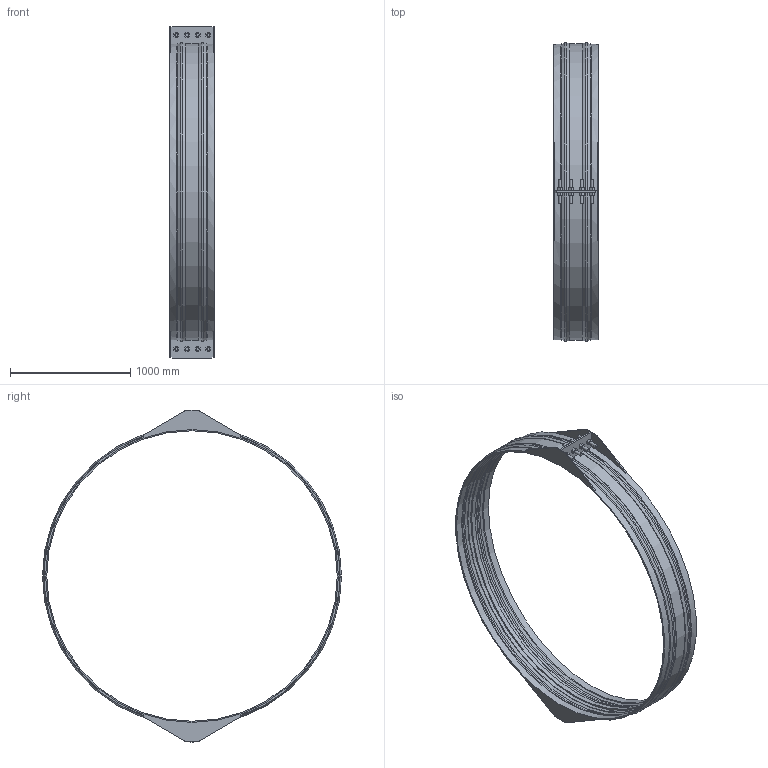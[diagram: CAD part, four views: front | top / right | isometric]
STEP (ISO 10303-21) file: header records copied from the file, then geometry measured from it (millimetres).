
FILE_DESCRIPTION(/* description */ ('VIC SS RESTRAINED COUPLING STYLE 233S (FLEX) (BRD)','CAx-IF Rec.Pracs.---Representation and Presentation of Product Manufacturing Information (PMI)---4.0---2014-10-13'),/* implementation_level */ '2;1');
FILE_NAME(/* name */ 'C:\Users\kkamble\AppData\Roaming\Autodesk\ApplicationPlugins\Back Up\Victaulic_VBSP_Coupling Flexible Restrained_Style 233S (BRD)\Victaulic_VBSP_Coupling Flexible Restrained_Style 233S (BRD)_75psi_96 (2400).stp',/* time_stamp */ '2020-09-22T18:31:52+05:00',/* author */ ('Vjadhav'),/* organization */ ('Victaulic'),/* preprocessor_version */ 'ST-DEVELOPER v17.2',/* originating_system */ 'Autodesk Inventor 2019',/* authorisation */ '');
FILE_SCHEMA (('PROCESS_PLANNING_SCHEMA','AP242_MANAGED_MODEL_BASED_3D_ENGINEERING_MIM_LF { 1 0 10303 442 1 1 4 }'));
Length unit declared in the file: inch
Products named in the file (1): Style_233S_Type_2_75psi-96.0
Bounding box: 374.65 x 2490.49 x 2764.79 mm (x, y, z)
Volume: 46420036.1 mm3; surface area: 7155302.3 mm2
Topology: 1 solids, 1 shells, 239 faces, 625 edges, 422 vertices
Faces by surface type: plane 166, cylinder 43, torus 18, cone 12
Full cylindrical faces by diameter (mm): 25.4 x16, 2419.35 x1, 2438.4 x2, 2444.75 x2
Entity records: 7896 total; most frequent: CARTESIAN_POINT 1496, DIRECTION 1259, ORIENTED_EDGE 1250, EDGE_CURVE 625, LINE 449, VECTOR 449, VERTEX_POINT 422, AXIS2_PLACEMENT_3D 405
